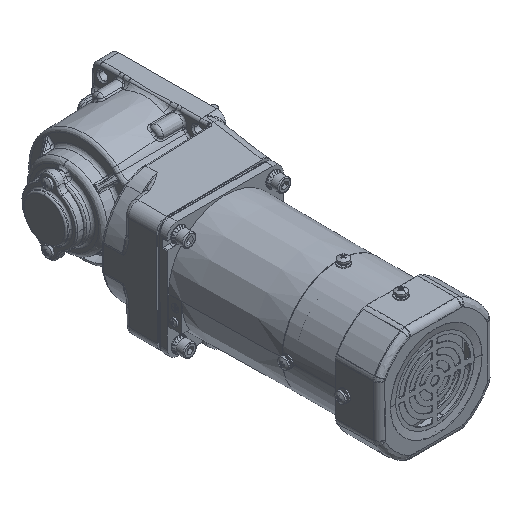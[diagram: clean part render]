
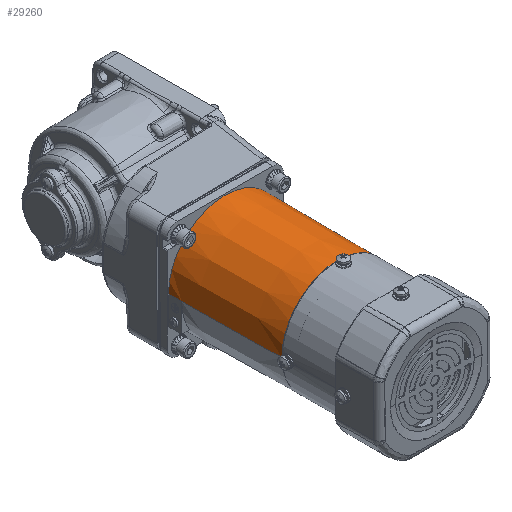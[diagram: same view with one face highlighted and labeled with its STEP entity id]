
A CAD part, isometric view. The second image highlights one B-rep face of the part: STEP entity #29260.
In plain terms, the highlighted conical face has half-angle 0.503 degrees and reference radius 44 mm.
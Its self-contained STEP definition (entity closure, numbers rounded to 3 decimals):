
#4798 = DIRECTION ( 'NONE',  ( 1., 0., -0.009 ) ) ;
#8208 = ORIENTED_EDGE ( 'NONE', *, *, #9554, .T. ) ;
#8247 = CARTESIAN_POINT ( 'NONE',  ( 72.248, 5.377, 162.308 ) ) ;
#9554 = EDGE_CURVE ( 'NONE', #56383, #58367, #33692, .T. ) ;
#10707 = EDGE_CURVE ( 'NONE', #11008, #51996, #48738, .T. ) ;
#11008 = VERTEX_POINT ( 'NONE', #60623 ) ;
#11780 = CARTESIAN_POINT ( 'NONE',  ( -14.752, 5.377, 206.308 ) ) ;
#13561 = FACE_OUTER_BOUND ( 'NONE', #93657, .T. ) ;
#14050 = CONICAL_SURFACE ( 'NONE', #96256, 44., 0.009 ) ;
#17357 = CARTESIAN_POINT ( 'NONE',  ( 62.248, 5.377, 250.221 ) ) ;
#18325 = LINE ( 'NONE', #55064, #36021 ) ;
#19357 = DIRECTION ( 'NONE',  ( 0., 0., -1. ) ) ;
#19547 = CARTESIAN_POINT ( 'NONE',  ( -14.752, 5.377, 249.545 ) ) ;
#21425 = ORIENTED_EDGE ( 'NONE', *, *, #42024, .T. ) ;
#24650 = ORIENTED_EDGE ( 'NONE', *, *, #10707, .T. ) ;
#27434 = DIRECTION ( 'NONE',  ( -1., 0., -0.009 ) ) ;
#27762 = DIRECTION ( 'NONE',  ( 1., 0., 0. ) ) ;
#29260 = ADVANCED_FACE ( 'NONE', ( #13561 ), #14050, .T. ) ;
#30728 = ORIENTED_EDGE ( 'NONE', *, *, #86119, .T. ) ;
#32787 = AXIS2_PLACEMENT_3D ( 'NONE', #89524, #44760, #96974 ) ;
#33692 = CIRCLE ( 'NONE', #32787, 44. ) ;
#36021 = VECTOR ( 'NONE', #62654, 1000. ) ;
#39650 = VECTOR ( 'NONE', #4798, 1000. ) ;
#42024 = EDGE_CURVE ( 'NONE', #58367, #44808, #51905, .T. ) ;
#42068 = LINE ( 'NONE', #57509, #39650 ) ;
#44760 = DIRECTION ( 'NONE',  ( -1., 0., 0. ) ) ;
#44808 = VERTEX_POINT ( 'NONE', #17357 ) ;
#48738 = CIRCLE ( 'NONE', #73660, 43.236 ) ;
#50090 = VECTOR ( 'NONE', #27434, 1000. ) ;
#51905 = LINE ( 'NONE', #19547, #50090 ) ;
#51996 = VERTEX_POINT ( 'NONE', #58638 ) ;
#53033 = CARTESIAN_POINT ( 'NONE',  ( 72.248, 5.377, 250.308 ) ) ;
#55064 = CARTESIAN_POINT ( 'NONE',  ( 72.248, 5.377, 250.308 ) ) ;
#56383 = VERTEX_POINT ( 'NONE', #8247 ) ;
#57509 = CARTESIAN_POINT ( 'NONE',  ( 72.248, 5.377, 162.308 ) ) ;
#58367 = VERTEX_POINT ( 'NONE', #53033 ) ;
#58638 = CARTESIAN_POINT ( 'NONE',  ( -14.752, 5.377, 163.072 ) ) ;
#60623 = CARTESIAN_POINT ( 'NONE',  ( -14.752, 5.377, 249.545 ) ) ;
#62427 = ORIENTED_EDGE ( 'NONE', *, *, #83453, .F. ) ;
#62654 = DIRECTION ( 'NONE',  ( 1., 0., 0.009 ) ) ;
#64666 = DIRECTION ( 'NONE',  ( 1., 0., 0. ) ) ;
#73660 = AXIS2_PLACEMENT_3D ( 'NONE', #11780, #64666, #19357 ) ;
#80416 = CARTESIAN_POINT ( 'NONE',  ( 72.248, 5.377, 206.308 ) ) ;
#83453 = EDGE_CURVE ( 'NONE', #11008, #44808, #18325, .T. ) ;
#86119 = EDGE_CURVE ( 'NONE', #51996, #56383, #42068, .T. ) ;
#87869 = DIRECTION ( 'NONE',  ( 0., 0., -1. ) ) ;
#89524 = CARTESIAN_POINT ( 'NONE',  ( 72.248, 5.377, 206.308 ) ) ;
#93657 = EDGE_LOOP ( 'NONE', ( #62427, #24650, #30728, #8208, #21425 ) ) ;
#96256 = AXIS2_PLACEMENT_3D ( 'NONE', #80416, #27762, #87869 ) ;
#96974 = DIRECTION ( 'NONE',  ( 0., 0., -1. ) ) ;
